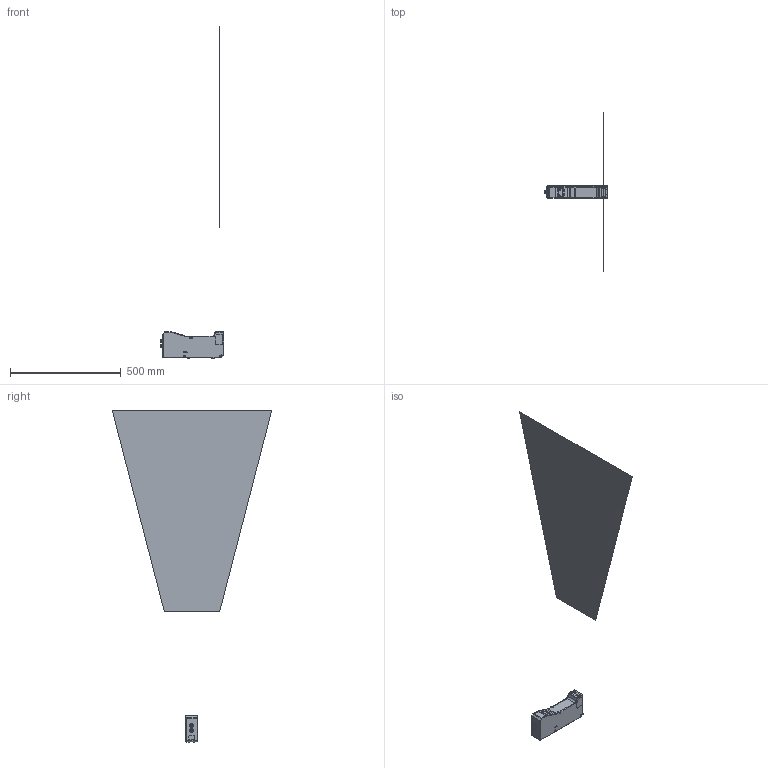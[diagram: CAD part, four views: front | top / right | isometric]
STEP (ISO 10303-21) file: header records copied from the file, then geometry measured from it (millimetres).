
FILE_DESCRIPTION((''),'2;1');
FILE_NAME('29003900-P-SHELL_SW0001','2024-10-23T14:07:17',('liudeting'),(''),'CREO PARAMETRIC BY PTC INC, 2020044','CREO PARAMETRIC BY PTC INC, 2020044','');
FILE_SCHEMA(('CONFIG_CONTROL_DESIGN'));
Length unit declared in the file: millimetre
Products named in the file (1): 29003900-P-SHELL_SW0001
Bounding box: 288.5 x 720 x 1498.5 mm (x, y, z)
Surface area: 552098.8 mm2 (no closed solid volume)
Topology: 0 solids, 43 shells, 863 faces, 2854 edges, 1976 vertices
Faces by surface type: plane 294, cylinder 243, cone 199, torus 86, bspline 41
Entity records: 43183 total; most frequent: CARTESIAN_POINT 18885, DIRECTION 4992, ORIENTED_EDGE 4832, EDGE_CURVE 2834, VERTEX_POINT 1976, AXIS2_PLACEMENT_3D 1856, VECTOR 1280, LINE 1280
